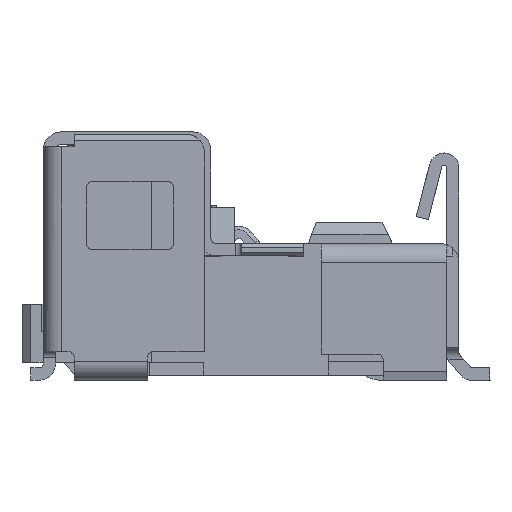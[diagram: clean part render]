
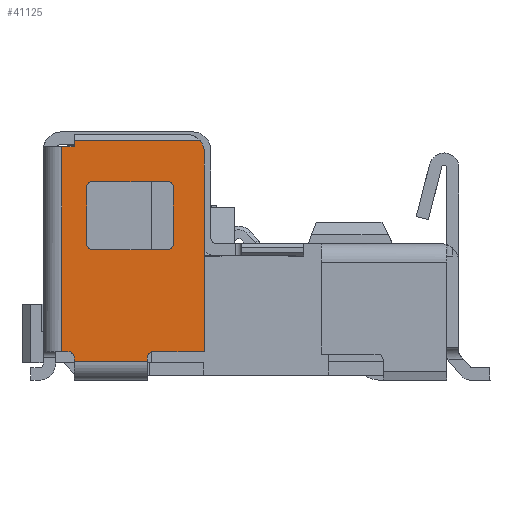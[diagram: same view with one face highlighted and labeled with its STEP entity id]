
A CAD part, left-side view. The second image highlights one B-rep face of the part: STEP entity #41125.
In plain terms, the highlighted planar face has unit normal (-1, 0, 0).
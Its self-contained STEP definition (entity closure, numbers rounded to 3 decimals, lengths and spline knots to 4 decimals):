
#1532=CIRCLE('',#44179,0.05);
#1539=CIRCLE('',#44194,0.05);
#1541=CIRCLE('',#44199,0.15);
#1542=CIRCLE('',#44202,0.05);
#1544=CIRCLE('',#44206,0.05);
#1547=CIRCLE('',#44212,0.05);
#1549=CIRCLE('',#44216,0.05);
#9284=ORIENTED_EDGE('',*,*,#18349,.F.);
#9285=ORIENTED_EDGE('',*,*,#18353,.T.);
#9286=ORIENTED_EDGE('',*,*,#18356,.F.);
#9287=ORIENTED_EDGE('',*,*,#18359,.T.);
#9288=ORIENTED_EDGE('',*,*,#18362,.F.);
#9289=ORIENTED_EDGE('',*,*,#18369,.T.);
#9290=ORIENTED_EDGE('',*,*,#18365,.F.);
#9291=ORIENTED_EDGE('',*,*,#18373,.T.);
#9292=ORIENTED_EDGE('',*,*,#18339,.T.);
#9293=ORIENTED_EDGE('',*,*,#18341,.T.);
#9294=ORIENTED_EDGE('',*,*,#18344,.T.);
#9295=ORIENTED_EDGE('',*,*,#18347,.T.);
#9296=ORIENTED_EDGE('',*,*,#15388,.T.);
#9297=ORIENTED_EDGE('',*,*,#18374,.T.);
#9298=ORIENTED_EDGE('',*,*,#18375,.T.);
#9299=ORIENTED_EDGE('',*,*,#15393,.F.);
#9300=ORIENTED_EDGE('',*,*,#18312,.F.);
#9301=ORIENTED_EDGE('',*,*,#18314,.T.);
#9302=ORIENTED_EDGE('',*,*,#18318,.T.);
#9303=ORIENTED_EDGE('',*,*,#18325,.F.);
#9304=ORIENTED_EDGE('',*,*,#18336,.T.);
#15388=EDGE_CURVE('',#21174,#21175,#25169,.T.);
#15393=EDGE_CURVE('',#21180,#21181,#25172,.T.);
#18312=EDGE_CURVE('',#23092,#21180,#27533,.T.);
#18314=EDGE_CURVE('',#23092,#23094,#1532,.T.);
#18318=EDGE_CURVE('',#23094,#23097,#27536,.T.);
#18325=EDGE_CURVE('',#23102,#23097,#27541,.T.);
#18336=EDGE_CURVE('',#23102,#23108,#27551,.T.);
#18339=EDGE_CURVE('',#23108,#23110,#1539,.T.);
#18341=EDGE_CURVE('',#23110,#23112,#27554,.T.);
#18344=EDGE_CURVE('',#23112,#23113,#27557,.T.);
#18347=EDGE_CURVE('',#23113,#21174,#1541,.T.);
#18349=EDGE_CURVE('',#23115,#23117,#27560,.T.);
#18353=EDGE_CURVE('',#23115,#23120,#1542,.T.);
#18356=EDGE_CURVE('',#23121,#23120,#27565,.T.);
#18359=EDGE_CURVE('',#23121,#23124,#1544,.T.);
#18362=EDGE_CURVE('',#23125,#23124,#27569,.T.);
#18365=EDGE_CURVE('',#23127,#23129,#27572,.T.);
#18369=EDGE_CURVE('',#23125,#23129,#1547,.T.);
#18373=EDGE_CURVE('',#23127,#23117,#1549,.T.);
#18374=EDGE_CURVE('',#21175,#23132,#27577,.T.);
#18375=EDGE_CURVE('',#23132,#21181,#27578,.T.);
#21174=VERTEX_POINT('',#56758);
#21175=VERTEX_POINT('',#56760);
#21180=VERTEX_POINT('',#56773);
#21181=VERTEX_POINT('',#56774);
#23092=VERTEX_POINT('',#62906);
#23094=VERTEX_POINT('',#62911);
#23097=VERTEX_POINT('',#62919);
#23102=VERTEX_POINT('',#62932);
#23108=VERTEX_POINT('',#62954);
#23110=VERTEX_POINT('',#62960);
#23112=VERTEX_POINT('',#62965);
#23113=VERTEX_POINT('',#62970);
#23115=VERTEX_POINT('',#62979);
#23117=VERTEX_POINT('',#62982);
#23120=VERTEX_POINT('',#62989);
#23121=VERTEX_POINT('',#62994);
#23124=VERTEX_POINT('',#63001);
#23125=VERTEX_POINT('',#63006);
#23127=VERTEX_POINT('',#63012);
#23129=VERTEX_POINT('',#63015);
#23132=VERTEX_POINT('',#63031);
#25169=LINE('',#56761,#29981);
#25172=LINE('',#56772,#29984);
#27533=LINE('',#62907,#32345);
#27536=LINE('',#62920,#32348);
#27541=LINE('',#62933,#32353);
#27551=LINE('',#62955,#32363);
#27554=LINE('',#62966,#32366);
#27557=LINE('',#62972,#32369);
#27560=LINE('',#62981,#32372);
#27565=LINE('',#62996,#32377);
#27569=LINE('',#63008,#32381);
#27572=LINE('',#63014,#32384);
#27577=LINE('',#63030,#32389);
#27578=LINE('',#63032,#32390);
#29981=VECTOR('',#46241,1000.);
#29984=VECTOR('',#46252,1000.);
#32345=VECTOR('',#51611,1000.);
#32348=VECTOR('',#51624,1000.);
#32353=VECTOR('',#51635,1000.);
#32363=VECTOR('',#51657,1000.);
#32366=VECTOR('',#51668,1000.);
#32369=VECTOR('',#51673,1000.);
#32372=VECTOR('',#51684,1000.);
#32377=VECTOR('',#51697,1000.);
#32381=VECTOR('',#51709,1000.);
#32384=VECTOR('',#51714,1000.);
#32389=VECTOR('',#51735,1000.);
#32390=VECTOR('',#51736,1000.);
#35457=EDGE_LOOP('',(#9284,#9285,#9286,#9287,#9288,#9289,#9290,#9291));
#35458=EDGE_LOOP('',(#9292,#9293,#9294,#9295,#9296,#9297,#9298,#9299,#9300,
#9301,#9302,#9303,#9304));
#37565=FACE_BOUND('',#35457,.T.);
#37566=FACE_BOUND('',#35458,.T.);
#39394=PLANE('',#44217);
#41125=ADVANCED_FACE('',(#37565,#37566),#39394,.F.);
#44179=AXIS2_PLACEMENT_3D('',#62912,#51615,#51616);
#44194=AXIS2_PLACEMENT_3D('',#62961,#51663,#51664);
#44199=AXIS2_PLACEMENT_3D('',#62976,#51679,#51680);
#44202=AXIS2_PLACEMENT_3D('',#62990,#51690,#51691);
#44206=AXIS2_PLACEMENT_3D('',#63002,#51702,#51703);
#44212=AXIS2_PLACEMENT_3D('',#63021,#51721,#51722);
#44216=AXIS2_PLACEMENT_3D('',#63028,#51731,#51732);
#44217=AXIS2_PLACEMENT_3D('',#63029,#51733,#51734);
#46241=DIRECTION('',(0.,1.,0.));
#46252=DIRECTION('',(0.,0.,1.));
#51611=DIRECTION('',(0.,1.,0.));
#51615=DIRECTION('',(1.,0.,0.));
#51616=DIRECTION('',(0.,0.,1.));
#51624=DIRECTION('',(0.,0.,-1.));
#51635=DIRECTION('',(0.,1.,0.));
#51657=DIRECTION('',(0.,0.,1.));
#51663=DIRECTION('',(1.,0.,0.));
#51664=DIRECTION('',(0.,1.,0.));
#51668=DIRECTION('',(0.,-1.,0.));
#51673=DIRECTION('',(0.,0.,1.));
#51679=DIRECTION('',(-1.,0.,0.));
#51680=DIRECTION('',(0.,-1.,0.));
#51684=DIRECTION('',(0.,0.,1.));
#51690=DIRECTION('',(1.,0.,0.));
#51691=DIRECTION('',(0.,-1.,0.));
#51697=DIRECTION('',(0.,-1.,0.));
#51702=DIRECTION('',(1.,0.,0.));
#51703=DIRECTION('',(0.,0.,-1.));
#51709=DIRECTION('',(0.,0.,-1.));
#51714=DIRECTION('',(0.,1.,0.));
#51721=DIRECTION('',(1.,0.,0.));
#51722=DIRECTION('',(0.,1.,0.));
#51731=DIRECTION('',(1.,0.,0.));
#51732=DIRECTION('',(0.,0.,1.));
#51733=DIRECTION('',(1.,0.,0.));
#51734=DIRECTION('',(0.,1.,0.));
#51735=DIRECTION('',(0.,0.,-1.));
#51736=DIRECTION('',(0.,1.,0.));
#56758=CARTESIAN_POINT('',(1.965,2.6382,2.4653));
#56760=CARTESIAN_POINT('',(1.965,3.65,2.4653));
#56761=CARTESIAN_POINT('',(1.965,2.6382,2.4653));
#56772=CARTESIAN_POINT('',(1.965,3.75,0.7653));
#56773=CARTESIAN_POINT('',(1.965,3.75,0.7653));
#56774=CARTESIAN_POINT('',(1.965,3.75,2.4153));
#62906=CARTESIAN_POINT('',(1.965,3.7,0.7653));
#62907=CARTESIAN_POINT('',(1.965,3.7,0.7653));
#62911=CARTESIAN_POINT('',(1.965,3.65,0.7153));
#62912=CARTESIAN_POINT('',(1.965,3.7,0.7153));
#62919=CARTESIAN_POINT('',(1.965,3.65,0.6853));
#62920=CARTESIAN_POINT('',(1.965,3.65,0.7153));
#62932=CARTESIAN_POINT('',(1.965,3.06,0.6853));
#62933=CARTESIAN_POINT('',(1.965,3.06,0.6853));
#62954=CARTESIAN_POINT('',(1.965,3.06,0.7153));
#62955=CARTESIAN_POINT('',(1.965,3.06,0.6853));
#62960=CARTESIAN_POINT('',(1.965,3.01,0.7653));
#62961=CARTESIAN_POINT('',(1.965,3.01,0.7153));
#62965=CARTESIAN_POINT('',(1.965,2.6,0.7653));
#62966=CARTESIAN_POINT('',(1.965,3.01,0.7653));
#62970=CARTESIAN_POINT('',(1.965,2.6,2.3653));
#62972=CARTESIAN_POINT('',(1.965,2.6,0.7653));
#62976=CARTESIAN_POINT('',(1.965,2.75,2.3653));
#62979=CARTESIAN_POINT('',(1.965,2.85,1.6353));
#62981=CARTESIAN_POINT('',(1.965,2.85,1.6353));
#62982=CARTESIAN_POINT('',(1.965,2.85,2.0853));
#62989=CARTESIAN_POINT('',(1.965,2.9,1.5853));
#62990=CARTESIAN_POINT('',(1.965,2.9,1.6353));
#62994=CARTESIAN_POINT('',(1.965,3.5,1.5853));
#62996=CARTESIAN_POINT('',(1.965,3.5,1.5853));
#63001=CARTESIAN_POINT('',(1.965,3.55,1.6353));
#63002=CARTESIAN_POINT('',(1.965,3.5,1.6353));
#63006=CARTESIAN_POINT('',(1.965,3.55,2.0853));
#63008=CARTESIAN_POINT('',(1.965,3.55,2.0853));
#63012=CARTESIAN_POINT('',(1.965,2.9,2.1353));
#63014=CARTESIAN_POINT('',(1.965,2.9,2.1353));
#63015=CARTESIAN_POINT('',(1.965,3.5,2.1353));
#63021=CARTESIAN_POINT('',(1.965,3.5,2.0853));
#63028=CARTESIAN_POINT('',(1.965,2.9,2.0853));
#63029=CARTESIAN_POINT('',(1.965,3.75,2.3153));
#63030=CARTESIAN_POINT('',(1.965,3.65,2.4653));
#63031=CARTESIAN_POINT('',(1.965,3.65,2.4153));
#63032=CARTESIAN_POINT('',(1.965,3.65,2.4153));
